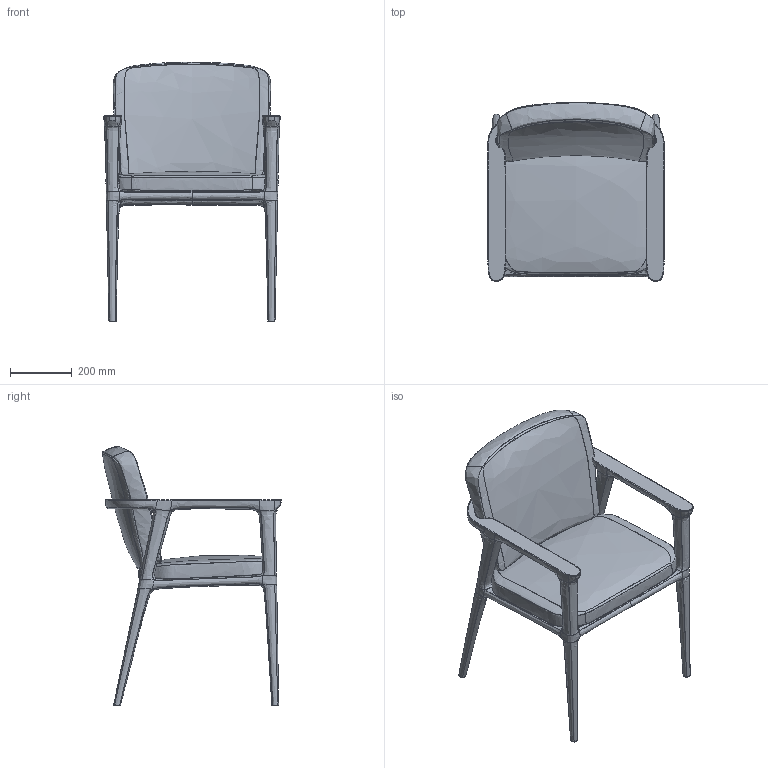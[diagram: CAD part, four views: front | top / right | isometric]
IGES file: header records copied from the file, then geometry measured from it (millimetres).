
Start section: SolidWorks IGES file using analytic representation for surfaces
Global section: file name: P:\Corporate Identity\4_Product_Content\2d3ddag_2014\Zio Dining Chair\3D\Zio Dining Chair.IGS; native system: SolidWorks 2014; preprocessor: SolidWorks 2014; author: wybrand; date: 140909.162302; units: millimetre
Bounding box: 572.09 x 580.19 x 841.51 mm (x, y, z)
Surface area: 2145049.9 mm2 (no closed solid volume)
Topology: 0 solids, 0 shells, 227 faces, 2129 edges, 2121 vertices
Faces by surface type: bspline 227
